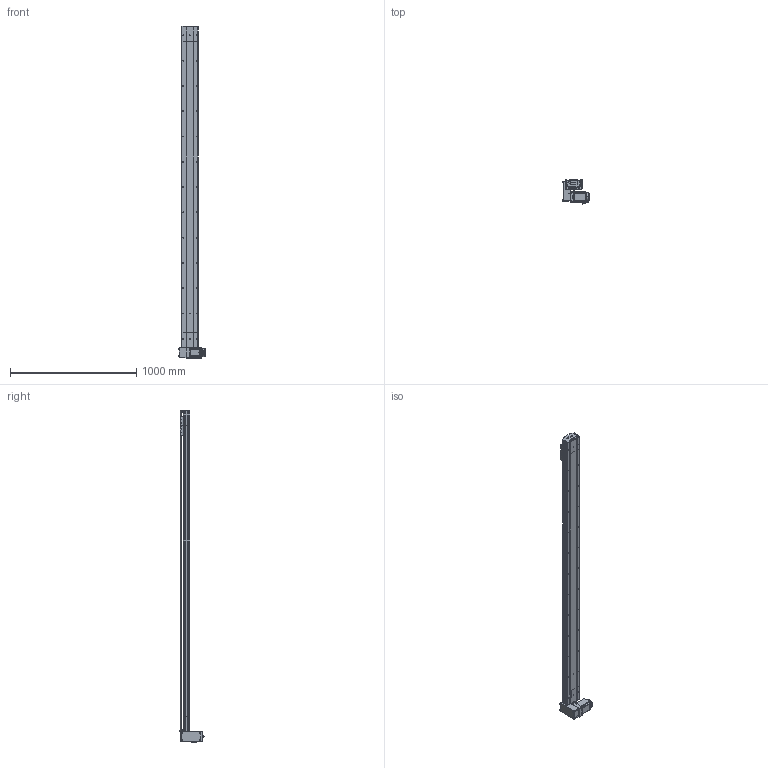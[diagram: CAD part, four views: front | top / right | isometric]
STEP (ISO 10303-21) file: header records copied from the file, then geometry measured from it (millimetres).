
FILE_DESCRIPTION (( 'STEP AP214' ), '1' );
FILE_NAME ('D14 TBH RU S2300.STEP', '2010-06-29T14:25:38', ( 'Conseil Régional Haute-Normandie' ), ( 'Conseil Régional Haute-Normandie' ), 'SwSTEP 2.0', 'SolidWorks 2010', '' );
FILE_SCHEMA (( 'AUTOMOTIVE_DESIGN' ));
Length unit declared in the file: millimetre
Products named in the file (39): guide D14; Chariot D14; chariot D14B_Default; Cvis M5 L70_Default; Vis M5 L16-2_Default; vis M5 L5_Default; Plaque racord D14_Default; Conecteur_Default; Conecteur2_Default; renvoi RH_Default; Cache arbre_Default; Cache_Default; codeur 90BLDC100-640; corps 90BLDC100A-640; avant 90BLDC100A-640; Moteur motionking 90BLDC100A-640; corpl tail D14_Default; Tail D14B_Default; plaque de  bout tail D14_Default; tete d''axe haut D14; vis M5 L16_Default; Arbre+rail tail D14; couvercle D14_Default; corp head D14_Default; vis M5 L8 90°_Default; D14 TB H RU_Default; couroie 2_Default; poulie head_Default; plaque de  bout head D14 RU_Default; Arbre+rail head D14; couvercle D14 head_Default; D14 TBH RU S2300; D14 couroie L2300_Default; corpl 2300_Default; vis M5 L12_Default; Rail + couroie D14 Course 2300 ; poulie tail_Default; couvercle D14 course L2300_Default; Couroie_Default
Assembly tree (68 placements, depth 4):
  D14 TBH RU S2300
    D14 couroie L2300_Default
      couvercle D14 course L2300_Default
      Rail + couroie D14 Course 2300 
      corpl 2300_Default
    chariot D14B_Default
      vis M5 L12_Default  x4
      guide D14  x2
      Chariot D14
    Tail D14B_Default
      vis M5 L16_Default  x2
      vis M5 L8 90°_Default  x2
      couvercle D14_Default
      plaque de  bout tail D14_Default
      Arbre+rail tail D14
      corpl tail D14_Default
      tete d''axe haut D14
      Couroie_Default
      vis M5 L12_Default  x4
      poulie tail_Default
    D14 TB H RU_Default
      Vis M5 L16-2_Default  x4
      vis M5 L12_Default  x12
      plaque de  bout head D14 RU_Default
      Plaque racord D14_Default
      Cache_Default  x2
      Arbre+rail head D14
      Cvis M5 L70_Default  x4
      Cache arbre_Default
      poulie head_Default
      renvoi RH_Default
      couroie 2_Default
      vis M5 L5_Default  x2
      corp head D14_Default
      Moteur motionking 90BLDC100A-640
        Conecteur2_Default
        codeur 90BLDC100-640
        corps 90BLDC100A-640
        Conecteur_Default
        avant 90BLDC100A-640
      couvercle D14 head_Default
Bounding box: 207.2 x 191.1 x 2625.75 mm (x, y, z)
Volume: 10036906.6 mm3; surface area: 3582477.7 mm2
Topology: 92 solids, 92 shells, 2709 faces, 6611 edges, 4266 vertices
Faces by surface type: plane 1609, cylinder 787, bspline 136, torus 89, cone 84, sphere 4
Entity records: 81512 total; most frequent: CARTESIAN_POINT 23925, ORIENTED_EDGE 10082, DIRECTION 9956, EDGE_CURVE 5041, LINE 3334, VECTOR 3334, VERTEX_POINT 3316, AXIS2_PLACEMENT_3D 3311
